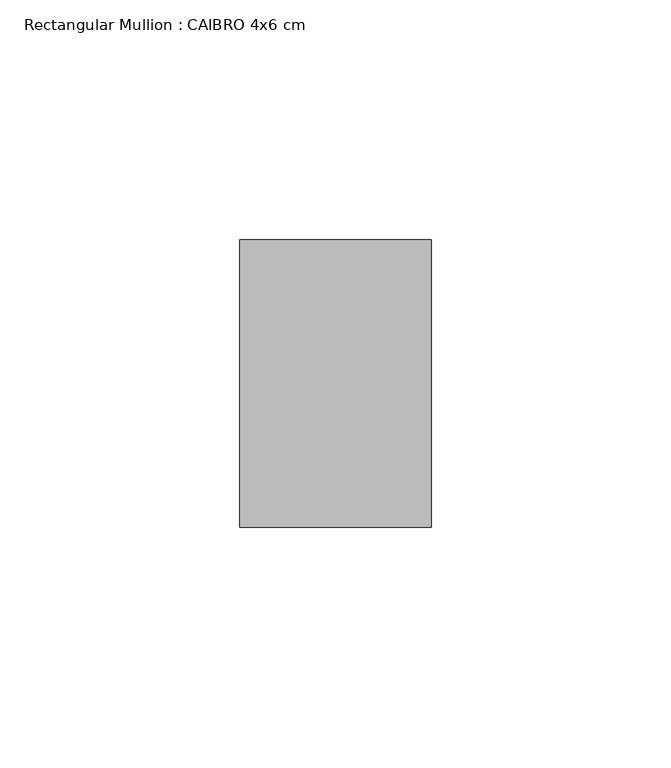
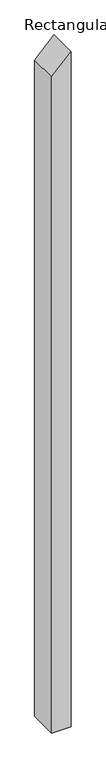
"""IFC4 building model written with IfcOpenShell, lengths in millimetres: member geometry, Rectangular Mullion : CAIBRO 4x6 cm."""

from ifc_helpers import new_model, si_unit, frame, origin, place, context, project, spatial, polyline, outline, extrude, source, transform, mapped, element, save


def rectangular_mullion_caibro_4x6_cm_ced69cca(model_context):
    return source(origin(), model_context, "Body", "SweptSolid", [
        extrude(outline(polyline([(-36.6621022, 20.0), (-77.109599, -20.0), (-1495.1847485, -20.0), (-1495.1847485, 20.0), (-36.6621022, 20.0)])), frame((0.0, 0.0, 0.0), z_axis=(0.0, 1.0, 0.0), x_axis=(0.0, 0.0, 1.0)), (0.0, 0.0, 1.0), 60.0),
    ])


if __name__ == "__main__":
    model = new_model("IFC4")
    model_context = context("Model", 3, world=origin())
    ifc_project = project(units=[si_unit("LENGTHUNIT", "METRE", prefix="MILLI")], contexts=[model_context])
    site = spatial("IfcSite", under=ifc_project)
    building = spatial("IfcBuilding", under=site)
    placement = place(None, origin())
    rectangular_mullion_caibro_4x6_cm_shape = rectangular_mullion_caibro_4x6_cm_ced69cca(model_context)
    element("IfcMember", 1, ObjectType="Rectangular Mullion : CAIBRO 4x6 cm", at=placement, inside=building, context=model_context, shape_type="MappedRepresentation", body=[
        mapped(rectangular_mullion_caibro_4x6_cm_shape, transform((0.0, 0.0, 0.0), x_axis=(1.0, 0.0, 0.0), y_axis=(0.0, 1.0, 0.0), z_axis=(0.0, 0.0, 1.0))),
    ])
    save(model, "model.ifc")
